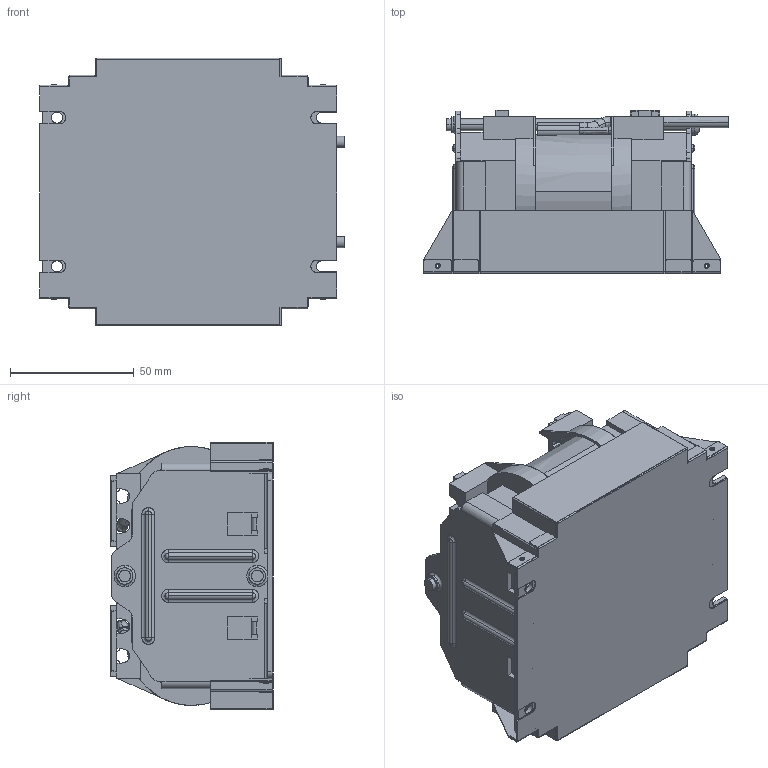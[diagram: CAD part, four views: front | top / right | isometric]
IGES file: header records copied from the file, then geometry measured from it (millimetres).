
Start section: SolidWorks IGES file using analytic representation for surfaces
Global section: file name: 34H\\10.106.230.1\R&D File\05_COMP\02_Mechanical\10_Others\PV_RT 81\网络用3D模型\半灌封模型\5KW_S_DCL\SP10225B-SM00SS20R(M-5KW_DCL-S).IGS; native system: SolidWorks 2009; preprocessor: SolidWorks 2009; author: Administrator; date: 120508.172028; units: millimetre
Bounding box: 123 x 65.75 x 108 mm (x, y, z)
Surface area: 169311.5 mm2 (no closed solid volume)
Topology: 0 solids, 0 shells, 1127 faces, 9060 edges, 9037 vertices
Faces by surface type: bspline 747, revolution 380
